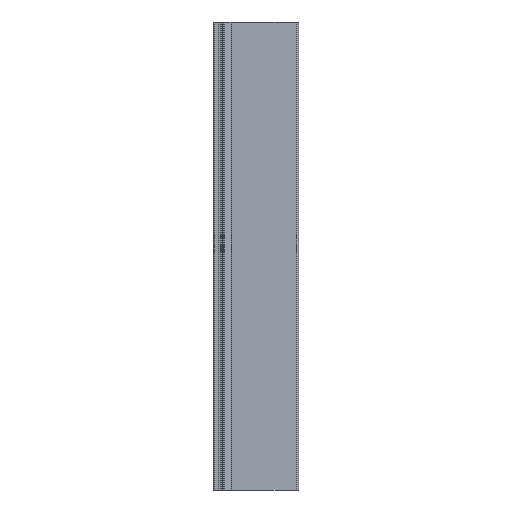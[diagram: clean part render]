
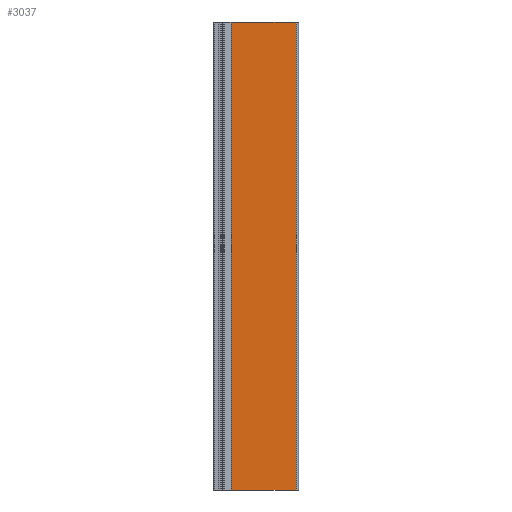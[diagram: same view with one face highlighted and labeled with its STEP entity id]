
A CAD part, left-side view. The second image highlights one B-rep face of the part: STEP entity #3037.
In plain terms, the highlighted planar face has unit normal (-1, 0, 0).
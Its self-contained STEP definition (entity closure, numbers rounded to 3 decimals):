
#42 = VECTOR ( 'NONE', #4112, 1000. ) ;
#51 = LINE ( 'NONE', #3138, #42 ) ;
#79 = VERTEX_POINT ( 'NONE', #1868 ) ;
#142 = LINE ( 'NONE', #331, #151 ) ;
#151 = VECTOR ( 'NONE', #325, 1000. ) ;
#325 = DIRECTION ( 'NONE',  ( 0., 0., 1. ) ) ;
#331 = CARTESIAN_POINT ( 'NONE',  ( 2.7, -23.55, -150. ) ) ;
#372 = CARTESIAN_POINT ( 'NONE',  ( 2.7, -23.55, 0. ) ) ;
#554 = EDGE_CURVE ( 'NONE', #1663, #907, #4166, .T. ) ;
#585 = LINE ( 'NONE', #738, #2484 ) ;
#738 = CARTESIAN_POINT ( 'NONE',  ( 2.7, -1.5, -150. ) ) ;
#742 = VERTEX_POINT ( 'NONE', #1421 ) ;
#817 = PLANE ( 'NONE',  #3127 ) ;
#869 = FACE_OUTER_BOUND ( 'NONE', #3033, .T. ) ;
#887 = CARTESIAN_POINT ( 'NONE',  ( 2.7, -1.5, -150. ) ) ;
#907 = VERTEX_POINT ( 'NONE', #372 ) ;
#1387 = DIRECTION ( 'NONE',  ( 0., -1., 0. ) ) ;
#1421 = CARTESIAN_POINT ( 'NONE',  ( 2.7, -23.55, -150. ) ) ;
#1433 = CARTESIAN_POINT ( 'NONE',  ( 2.7, -1.5, 0. ) ) ;
#1663 = VERTEX_POINT ( 'NONE', #2461 ) ;
#1686 = DIRECTION ( 'NONE',  ( 0., -1., 0. ) ) ;
#1725 = EDGE_CURVE ( 'NONE', #79, #1663, #585, .T. ) ;
#1735 = DIRECTION ( 'NONE',  ( -1., 0., 0. ) ) ;
#1793 = ORIENTED_EDGE ( 'NONE', *, *, #3422, .T. ) ;
#1797 = ORIENTED_EDGE ( 'NONE', *, *, #3396, .T. ) ;
#1807 = ORIENTED_EDGE ( 'NONE', *, *, #554, .F. ) ;
#1813 = ORIENTED_EDGE ( 'NONE', *, *, #1725, .F. ) ;
#1868 = CARTESIAN_POINT ( 'NONE',  ( 2.7, -1.5, -150. ) ) ;
#1979 = DIRECTION ( 'NONE',  ( 0., 0., 1. ) ) ;
#2461 = CARTESIAN_POINT ( 'NONE',  ( 2.7, -1.5, 0. ) ) ;
#2484 = VECTOR ( 'NONE', #1979, 1000. ) ;
#3033 = EDGE_LOOP ( 'NONE', ( #1793, #1797, #1807, #1813 ) ) ;
#3037 = ADVANCED_FACE ( 'NONE', ( #869 ), #817, .T. ) ;
#3127 = AXIS2_PLACEMENT_3D ( 'NONE', #887, #1735, #1686 ) ;
#3138 = CARTESIAN_POINT ( 'NONE',  ( 2.7, -1.5, -150. ) ) ;
#3396 = EDGE_CURVE ( 'NONE', #742, #907, #142, .T. ) ;
#3422 = EDGE_CURVE ( 'NONE', #79, #742, #51, .T. ) ;
#4112 = DIRECTION ( 'NONE',  ( 0., -1., 0. ) ) ;
#4159 = VECTOR ( 'NONE', #1387, 1000. ) ;
#4166 = LINE ( 'NONE', #1433, #4159 ) ;
